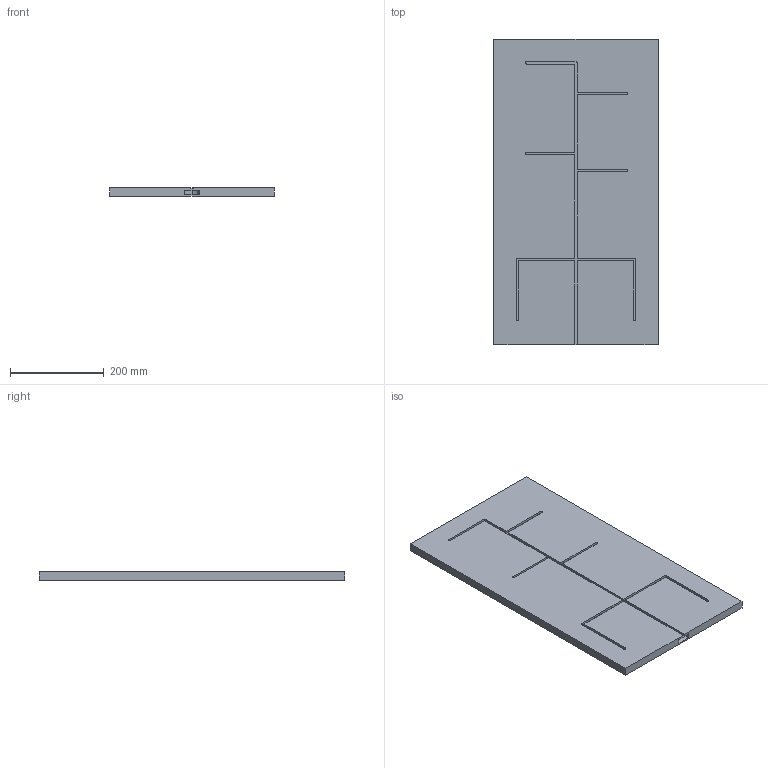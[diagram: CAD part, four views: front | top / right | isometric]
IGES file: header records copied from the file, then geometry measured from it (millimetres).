
Start section: SolidWorks IGES file using analytic representation for surfaces
Global section: file name: C:\Users\admin\Documents\Solidworks_projekty\Bludištì_sestavení\Postav snìhuláka\zakladni_deska_frezovani_vysledek.IGS; native system: SolidWorks 2017; preprocessor: SolidWorks 2017; author: admin; date: 171215.141327; units: millimetre
Bounding box: 350 x 650 x 18 mm (x, y, z)
Surface area: 611985.5 mm2 (no closed solid volume)
Topology: 0 solids, 0 shells, 76 faces, 760 edges, 760 vertices
Faces by surface type: bspline 54, revolution 22
